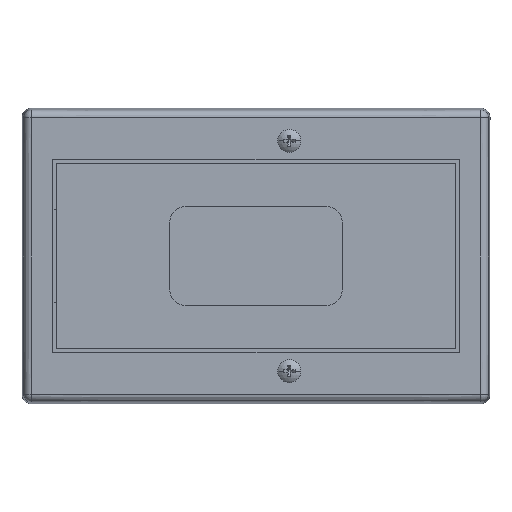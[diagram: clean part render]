
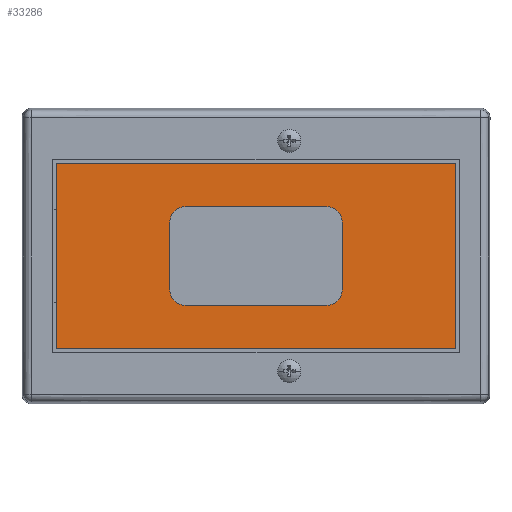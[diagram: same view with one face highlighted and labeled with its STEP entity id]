
A CAD part, front view. The second image highlights one B-rep face of the part: STEP entity #33286.
In plain terms, the highlighted planar face has unit normal (0, -1, 0).
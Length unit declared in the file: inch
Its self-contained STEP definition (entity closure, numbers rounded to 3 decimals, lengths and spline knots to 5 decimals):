
#190 = DIRECTION ( 'NONE',  ( 0., 0., -1. ) ) ;
#204 = CARTESIAN_POINT ( 'NONE',  ( 0.755, -0.485, 1.62 ) ) ;
#2000 = EDGE_CURVE ( 'NONE', #24807, #2662, #16391, .T. ) ;
#2662 = VERTEX_POINT ( 'NONE', #24652 ) ;
#2711 = CARTESIAN_POINT ( 'NONE',  ( -0.755, -0.485, -1.62 ) ) ;
#5406 = CARTESIAN_POINT ( 'NONE',  ( -0.755, -0.485, 1.62 ) ) ;
#5721 = EDGE_CURVE ( 'NONE', #25740, #24807, #19845, .T. ) ;
#6468 = DIRECTION ( 'NONE',  ( 0., 1., 0. ) ) ;
#9452 = VECTOR ( 'NONE', #12255, 39.37008 ) ;
#9634 = EDGE_LOOP ( 'NONE', ( #27449, #9776, #20493, #18821 ) ) ;
#9776 = ORIENTED_EDGE ( 'NONE', *, *, #2000, .T. ) ;
#10827 = EDGE_CURVE ( 'NONE', #2662, #13869, #11101, .T. ) ;
#11025 = FACE_OUTER_BOUND ( 'NONE', #9634, .T. ) ;
#11101 = LINE ( 'NONE', #2711, #31052 ) ;
#12094 = VECTOR ( 'NONE', #31870, 39.37008 ) ;
#12255 = DIRECTION ( 'NONE',  ( -1., 0., 0. ) ) ;
#12871 = AXIS2_PLACEMENT_3D ( 'NONE', #19317, #6468, #24660 ) ;
#13869 = VERTEX_POINT ( 'NONE', #25660 ) ;
#14633 = CARTESIAN_POINT ( 'NONE',  ( 0.755, -0.485, -1.62 ) ) ;
#16391 = LINE ( 'NONE', #5406, #9452 ) ;
#16720 = PLANE ( 'NONE',  #12871 ) ;
#18622 = LINE ( 'NONE', #14633, #24693 ) ;
#18821 = ORIENTED_EDGE ( 'NONE', *, *, #21741, .T. ) ;
#19317 = CARTESIAN_POINT ( 'NONE',  ( 0., -0.485, 0. ) ) ;
#19845 = LINE ( 'NONE', #21302, #12094 ) ;
#20493 = ORIENTED_EDGE ( 'NONE', *, *, #10827, .T. ) ;
#21302 = CARTESIAN_POINT ( 'NONE',  ( 0.755, -0.485, 1.62 ) ) ;
#21741 = EDGE_CURVE ( 'NONE', #13869, #25740, #18622, .T. ) ;
#24652 = CARTESIAN_POINT ( 'NONE',  ( -0.755, -0.485, 1.62 ) ) ;
#24660 = DIRECTION ( 'NONE',  ( 0., 0., 1. ) ) ;
#24693 = VECTOR ( 'NONE', #27550, 39.37008 ) ;
#24807 = VERTEX_POINT ( 'NONE', #204 ) ;
#25660 = CARTESIAN_POINT ( 'NONE',  ( -0.755, -0.485, -1.62 ) ) ;
#25740 = VERTEX_POINT ( 'NONE', #33284 ) ;
#27449 = ORIENTED_EDGE ( 'NONE', *, *, #5721, .T. ) ;
#27550 = DIRECTION ( 'NONE',  ( 1., 0., 0. ) ) ;
#31052 = VECTOR ( 'NONE', #190, 39.37008 ) ;
#31870 = DIRECTION ( 'NONE',  ( 0., 0., 1. ) ) ;
#33284 = CARTESIAN_POINT ( 'NONE',  ( 0.755, -0.485, -1.62 ) ) ;
#33286 = ADVANCED_FACE ( 'NONE', ( #11025 ), #16720, .F. ) ;
